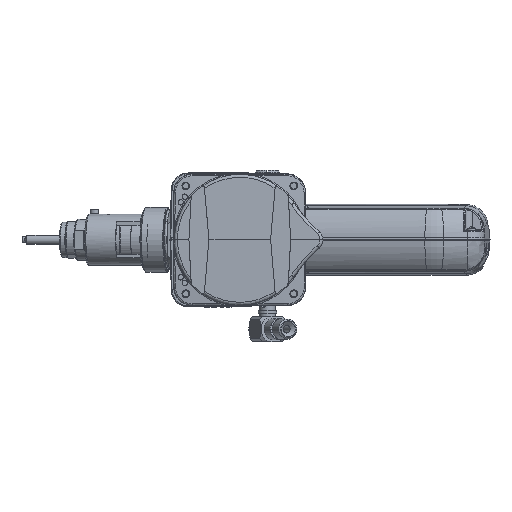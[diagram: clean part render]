
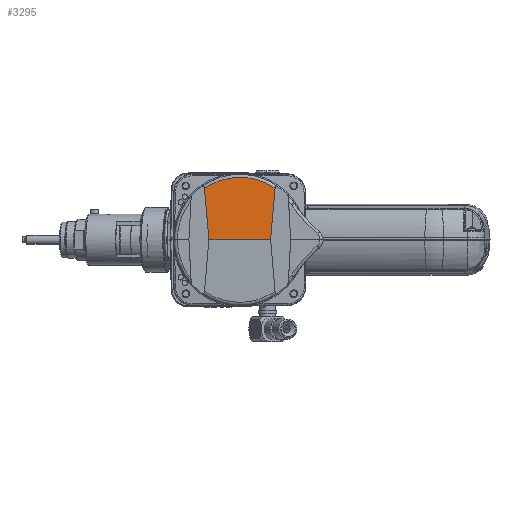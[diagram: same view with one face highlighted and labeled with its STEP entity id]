
A CAD part, front view. The second image highlights one B-rep face of the part: STEP entity #3295.
In plain terms, the highlighted planar face has unit normal (0, -1, 0.018).
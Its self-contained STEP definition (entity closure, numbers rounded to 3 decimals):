
#581 = LINE ( 'NONE', #14357, #16516 ) ;
#3295 = ADVANCED_FACE ( 'NONE', ( #40438 ), #56073, .T. ) ;
#4714 = VECTOR ( 'NONE', #10360, 1000. ) ;
#6039 = AXIS2_PLACEMENT_3D ( 'NONE', #20453, #62397, #26448 ) ;
#7399 = VECTOR ( 'NONE', #75482, 1000. ) ;
#9644 =( BOUNDED_CURVE ( )  B_SPLINE_CURVE ( 3, ( #67479, #13533, #73529, #37599 ),
 .UNSPECIFIED., .F., .F. ) 
 B_SPLINE_CURVE_WITH_KNOTS ( ( 4, 4 ),
 ( 2.54, 3.743 ),
 .UNSPECIFIED. ) 
 CURVE ( )  GEOMETRIC_REPRESENTATION_ITEM ( )  RATIONAL_B_SPLINE_CURVE ( ( 1., 0.883, 0.883, 1. ) ) 
 REPRESENTATION_ITEM ( '' )  );
#10360 = DIRECTION ( 'NONE',  ( 0.087, 0.017, 0.996 ) ) ;
#13042 = DIRECTION ( 'NONE',  ( 1., 0., 0. ) ) ;
#13533 = CARTESIAN_POINT ( 'NONE',  ( -2.938, -197.486, 235.102 ) ) ;
#14357 = CARTESIAN_POINT ( 'NONE',  ( -264.303, -198.241, 191.882 ) ) ;
#15595 = CARTESIAN_POINT ( 'NONE',  ( 766.077, -47.076, 8852.085 ) ) ;
#16516 = VECTOR ( 'NONE', #13042, 1000. ) ;
#20453 = CARTESIAN_POINT ( 'NONE',  ( -264.303, -198.241, 191.882 ) ) ;
#25128 = VERTEX_POINT ( 'NONE', #25786 ) ;
#25786 = CARTESIAN_POINT ( 'NONE',  ( -31.593, -198.241, 191.882 ) ) ;
#26448 = DIRECTION ( 'NONE',  ( 0., 0.017, 1. ) ) ;
#32726 = CARTESIAN_POINT ( 'NONE',  ( 8.407, -198.241, 191.882 ) ) ;
#37599 = CARTESIAN_POINT ( 'NONE',  ( -34.517, -197.657, 225.304 ) ) ;
#39628 = EDGE_CURVE ( 'NONE', #51466, #25128, #71091, .T. ) ;
#40438 = FACE_OUTER_BOUND ( 'NONE', #58722, .T. ) ;
#43990 = CARTESIAN_POINT ( 'NONE',  ( -34.517, -197.657, 225.304 ) ) ;
#44737 = CARTESIAN_POINT ( 'NONE',  ( 11.331, -197.657, 225.304 ) ) ;
#49419 = ORIENTED_EDGE ( 'NONE', *, *, #59693, .T. ) ;
#51336 = CARTESIAN_POINT ( 'NONE',  ( -789.262, -47.076, 8852.085 ) ) ;
#51466 = VERTEX_POINT ( 'NONE', #43990 ) ;
#56073 = PLANE ( 'NONE',  #6039 ) ;
#57910 = EDGE_CURVE ( 'NONE', #25128, #68656, #581, .T. ) ;
#58722 = EDGE_LOOP ( 'NONE', ( #49419, #66665, #68569, #61481 ) ) ;
#59693 = EDGE_CURVE ( 'NONE', #68656, #62756, #66680, .T. ) ;
#61481 = ORIENTED_EDGE ( 'NONE', *, *, #57910, .T. ) ;
#62397 = DIRECTION ( 'NONE',  ( 0., -1., 0.017 ) ) ;
#62756 = VERTEX_POINT ( 'NONE', #44737 ) ;
#66665 = ORIENTED_EDGE ( 'NONE', *, *, #72918, .T. ) ;
#66680 = LINE ( 'NONE', #15595, #4714 ) ;
#67479 = CARTESIAN_POINT ( 'NONE',  ( 11.331, -197.657, 225.304 ) ) ;
#68569 = ORIENTED_EDGE ( 'NONE', *, *, #39628, .T. ) ;
#68656 = VERTEX_POINT ( 'NONE', #32726 ) ;
#71091 = LINE ( 'NONE', #51336, #7399 ) ;
#72918 = EDGE_CURVE ( 'NONE', #62756, #51466, #9644, .T. ) ;
#73529 = CARTESIAN_POINT ( 'NONE',  ( -20.247, -197.486, 235.102 ) ) ;
#75482 = DIRECTION ( 'NONE',  ( 0.087, -0.017, -0.996 ) ) ;
